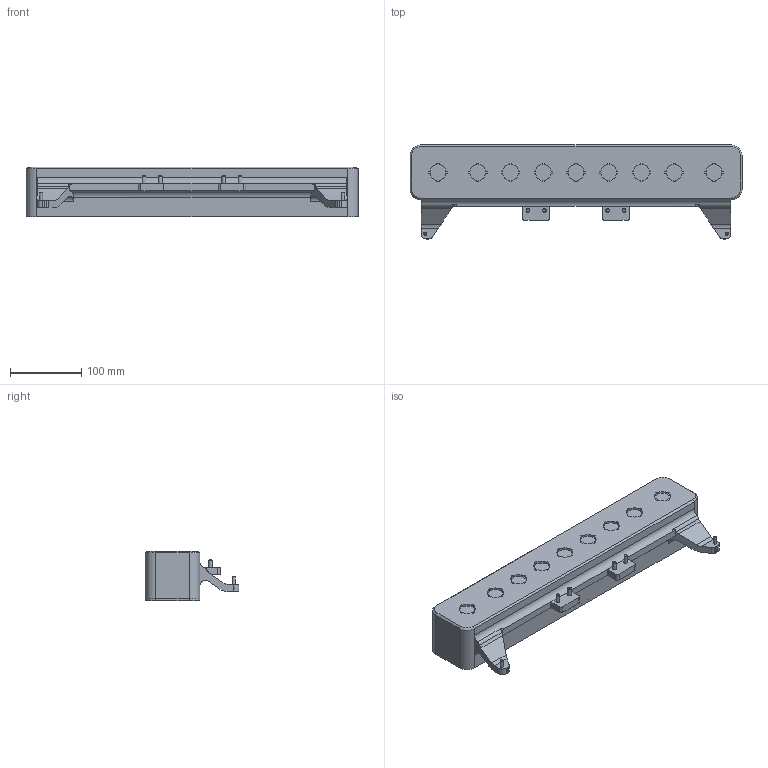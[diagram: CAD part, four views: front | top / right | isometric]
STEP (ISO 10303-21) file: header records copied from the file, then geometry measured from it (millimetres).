
FILE_DESCRIPTION(/* description */ (''),/* implementation_level */ '2;1');
FILE_NAME(/* name */ 'C:\SAPInventorWork\778-90205_EXTERN.stp',/* time_stamp */ '2024-02-21T10:28:51+01:00',/* author */ ('Aiple'),/* organization */ (''),/* preprocessor_version */ 'ST-DEVELOPER v18.1',/* originating_system */ 'Autodesk Inventor 2021',/* authorisation */ '');
FILE_SCHEMA (('AUTOMOTIVE_DESIGN { 1 0 10303 214 3 1 1 }'));
Length unit declared in the file: millimetre
Products named in the file (1): 778-90205
Bounding box: 466.5 x 132 x 70.08 mm (x, y, z)
Volume: 2589202.3 mm3; surface area: 176197.4 mm2
Topology: 1 solids, 21 shells, 1053 faces, 2873 edges, 1900 vertices
Faces by surface type: cylinder 541, plane 258, cone 236, bspline 12, torus 6
Full cylindrical faces by diameter (mm): 3 x20, 4 x22, 4.5 x2, 5 x4, 5.5 x4, 5.54 x20, 7 x2, 8 x2, 8.5 x4, 10 x4, 20.3 x1
Entity records: 41141 total; most frequent: CARTESIAN_POINT 14635, ORIENTED_EDGE 5694, DIRECTION 4721, EDGE_CURVE 2847, VERTEX_POINT 1900, AXIS2_PLACEMENT_3D 1818, EDGE_LOOP 1157, LINE 1085
